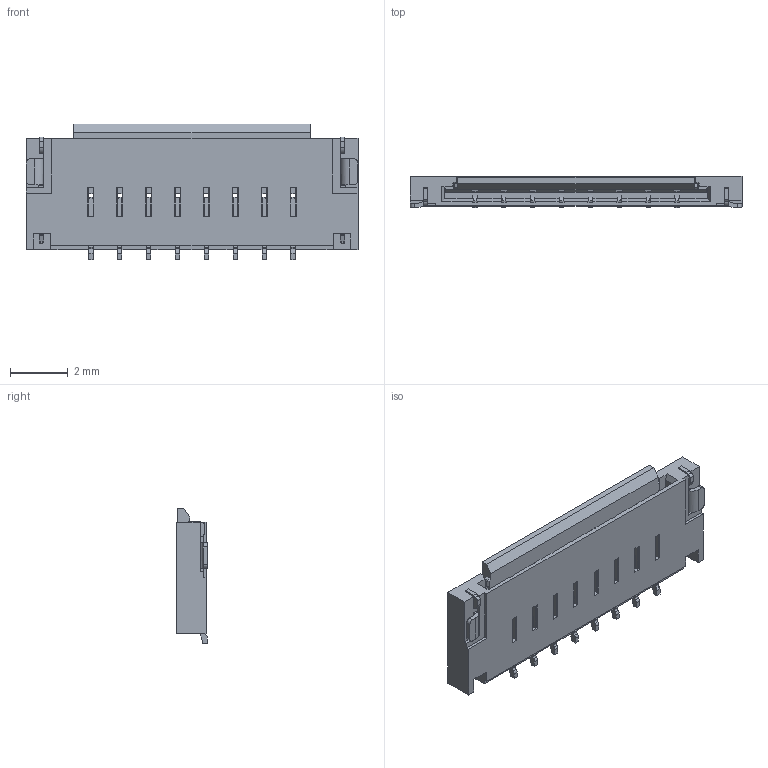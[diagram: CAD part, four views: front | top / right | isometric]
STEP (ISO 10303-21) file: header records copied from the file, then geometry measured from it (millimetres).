
FILE_DESCRIPTION((''),'2;1');
FILE_NAME('S-51637-008XX-XXX-REV-1','2014-05-26T',('junwei'),(''),'PRO/ENGINEER BY PARAMETRIC TECHNOLOGY CORPORATION, 2010280','PRO/ENGINEER BY PARAMETRIC TECHNOLOGY CORPORATION, 2010280','');
FILE_SCHEMA(('CONFIG_CONTROL_DESIGN', 'GEOMETRIC_VALIDATION_PROPERTIES_MIM'));
Length unit declared in the file: millimetre
Products named in the file (1): S-51637-008XX-XXX-REV-1
Bounding box: 11.5 x 1.07 x 4.69 mm (x, y, z)
Volume: 31.3 mm3; surface area: 238 mm2
Topology: 1 solids, 1 shells, 840 faces, 2617 edges, 1756 vertices
Faces by surface type: plane 605, cylinder 233, cone 2
Entity records: 35138 total; most frequent: CARTESIAN_POINT 5412, ORIENTED_EDGE 5150, DIRECTION 4661, EDGE_CURVE 2575, VECTOR 2087, LINE 2087, VERTEX_POINT 1712, AXIS2_PLACEMENT_3D 1287
